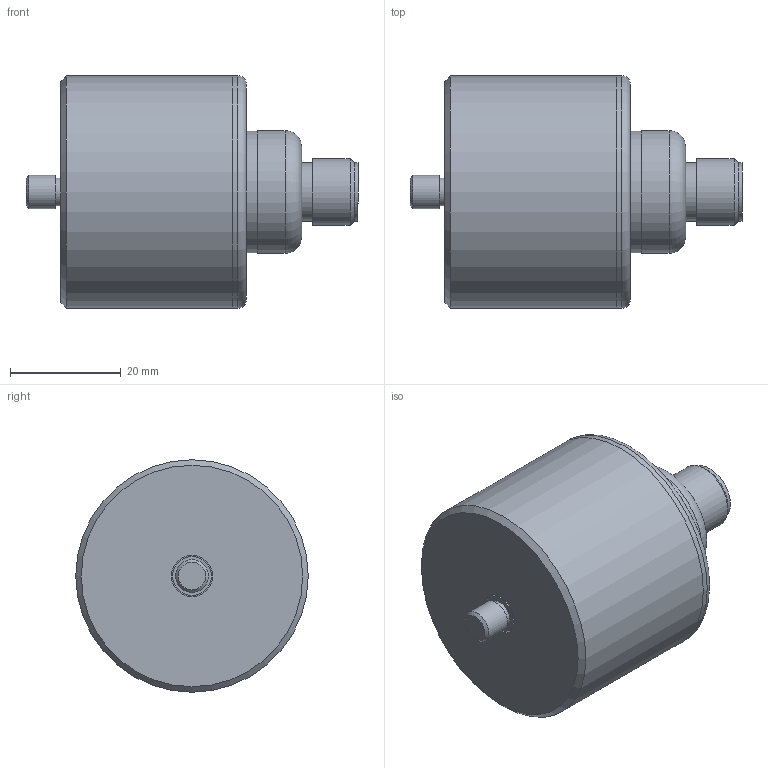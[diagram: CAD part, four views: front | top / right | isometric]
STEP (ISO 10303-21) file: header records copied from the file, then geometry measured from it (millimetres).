
FILE_DESCRIPTION(/* description */ (''),/* implementation_level */ '2;1');
FILE_NAME(/* name */ 'Z:\Engineering\Drawings\3D Library\Assemblies\Website\HS-173RXXX5406.stp',/* time_stamp */ '2023-03-25T13:45:52+00:00',/* author */ ('Ricardo.Peneda'),/* organization */ (''),/* preprocessor_version */ 'ST-DEVELOPER v18.1',/* originating_system */ 'Autodesk Inventor 2021',/* authorisation */ '');
FILE_SCHEMA (('AUTOMOTIVE_DESIGN { 1 0 10303 214 3 1 1 }'));
Length unit declared in the file: inch
Products named in the file (1): HS-173RXXX5406_Shrinkwrap_1
Bounding box: 59.99 x 42 x 42 mm (x, y, z)
Volume: 49646.6 mm3; surface area: 12412.8 mm2
Topology: 4 solids, 4 shells, 53 faces, 129 edges, 97 vertices
Faces by surface type: cylinder 21, plane 21, cone 7, torus 2, sphere 2
Full cylindrical faces by diameter (mm): 5 x2, 5.359 x1, 6 x1, 6.35 x1, 7 x1, 7.5 x1, 9.4 x2, 10.496 x1, 10.5 x1, 12 x1, 18 x1, 19.95 x1, 20 x1, 22 x1, 22.2 x1, 40 x1, 42 x2
Entity records: 1752 total; most frequent: DIRECTION 333, CARTESIAN_POINT 278, ORIENTED_EDGE 254, AXIS2_PLACEMENT_3D 152, EDGE_CURVE 127, CIRCLE 98, VERTEX_POINT 97, EDGE_LOOP 70
